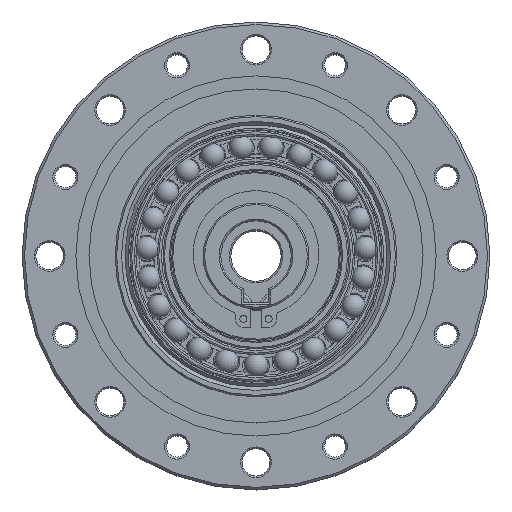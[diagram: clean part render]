
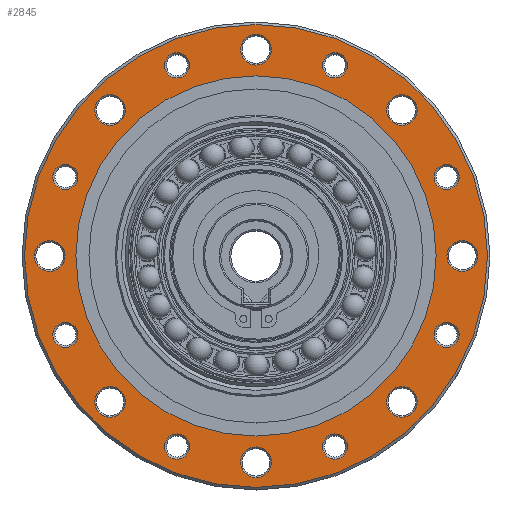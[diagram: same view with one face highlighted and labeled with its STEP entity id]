
A CAD part, top view. The second image highlights one B-rep face of the part: STEP entity #2845.
In plain terms, the highlighted planar face has unit normal (0, 0, 1).
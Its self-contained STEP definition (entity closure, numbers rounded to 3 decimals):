
#2845=ADVANCED_FACE('',(#4207,#4208,#4209,#4210,#4211,#4212,#4213,#4214,
#4215,#4216,#4217,#4218,#4219,#4220,#4221,#4222,#4223,#4224),#3446,.T.);
#3446=PLANE('',#12802);
#4207=FACE_BOUND('',#5279,.T.);
#4208=FACE_BOUND('',#5280,.T.);
#4209=FACE_BOUND('',#5281,.T.);
#4210=FACE_BOUND('',#5282,.T.);
#4211=FACE_BOUND('',#5283,.T.);
#4212=FACE_BOUND('',#5284,.T.);
#4213=FACE_BOUND('',#5285,.T.);
#4214=FACE_BOUND('',#5286,.T.);
#4215=FACE_BOUND('',#5287,.T.);
#4216=FACE_BOUND('',#5288,.T.);
#4217=FACE_BOUND('',#5289,.T.);
#4218=FACE_BOUND('',#5290,.T.);
#4219=FACE_BOUND('',#5291,.T.);
#4220=FACE_BOUND('',#5292,.T.);
#4221=FACE_BOUND('',#5293,.T.);
#4222=FACE_BOUND('',#5294,.T.);
#4223=FACE_BOUND('',#5295,.T.);
#4224=FACE_BOUND('',#5296,.T.);
#5279=EDGE_LOOP('',(#6637));
#5280=EDGE_LOOP('',(#6638));
#5281=EDGE_LOOP('',(#6639));
#5282=EDGE_LOOP('',(#6640));
#5283=EDGE_LOOP('',(#6641));
#5284=EDGE_LOOP('',(#6642));
#5285=EDGE_LOOP('',(#6643));
#5286=EDGE_LOOP('',(#6644));
#5287=EDGE_LOOP('',(#6645));
#5288=EDGE_LOOP('',(#6646));
#5289=EDGE_LOOP('',(#6647));
#5290=EDGE_LOOP('',(#6648));
#5291=EDGE_LOOP('',(#6649));
#5292=EDGE_LOOP('',(#6650));
#5293=EDGE_LOOP('',(#6651));
#5294=EDGE_LOOP('',(#6652));
#5295=EDGE_LOOP('',(#6653));
#5296=EDGE_LOOP('',(#6654));
#6637=ORIENTED_EDGE('',*,*,#10296,.T.);
#6638=ORIENTED_EDGE('',*,*,#10297,.T.);
#6639=ORIENTED_EDGE('',*,*,#10298,.T.);
#6640=ORIENTED_EDGE('',*,*,#10299,.T.);
#6641=ORIENTED_EDGE('',*,*,#10300,.T.);
#6642=ORIENTED_EDGE('',*,*,#10301,.T.);
#6643=ORIENTED_EDGE('',*,*,#10302,.T.);
#6644=ORIENTED_EDGE('',*,*,#10303,.T.);
#6645=ORIENTED_EDGE('',*,*,#10304,.T.);
#6646=ORIENTED_EDGE('',*,*,#10305,.T.);
#6647=ORIENTED_EDGE('',*,*,#10306,.T.);
#6648=ORIENTED_EDGE('',*,*,#10307,.T.);
#6649=ORIENTED_EDGE('',*,*,#10308,.T.);
#6650=ORIENTED_EDGE('',*,*,#10309,.T.);
#6651=ORIENTED_EDGE('',*,*,#10310,.T.);
#6652=ORIENTED_EDGE('',*,*,#10311,.T.);
#6653=ORIENTED_EDGE('',*,*,#10312,.T.);
#6654=ORIENTED_EDGE('',*,*,#10295,.F.);
#9175=VERTEX_POINT('',#18557);
#9176=VERTEX_POINT('',#18560);
#9177=VERTEX_POINT('',#18562);
#9178=VERTEX_POINT('',#18564);
#9179=VERTEX_POINT('',#18566);
#9180=VERTEX_POINT('',#18568);
#9181=VERTEX_POINT('',#18570);
#9182=VERTEX_POINT('',#18572);
#9183=VERTEX_POINT('',#18574);
#9184=VERTEX_POINT('',#18576);
#9185=VERTEX_POINT('',#18578);
#9186=VERTEX_POINT('',#18580);
#9187=VERTEX_POINT('',#18582);
#9188=VERTEX_POINT('',#18584);
#9189=VERTEX_POINT('',#18586);
#9190=VERTEX_POINT('',#18588);
#9191=VERTEX_POINT('',#18590);
#9192=VERTEX_POINT('',#18592);
#10295=EDGE_CURVE('',#9175,#9175,#11697,.T.);
#10296=EDGE_CURVE('',#9176,#9176,#11698,.T.);
#10297=EDGE_CURVE('',#9177,#9177,#11699,.T.);
#10298=EDGE_CURVE('',#9178,#9178,#11700,.T.);
#10299=EDGE_CURVE('',#9179,#9179,#11701,.T.);
#10300=EDGE_CURVE('',#9180,#9180,#11702,.T.);
#10301=EDGE_CURVE('',#9181,#9181,#11703,.T.);
#10302=EDGE_CURVE('',#9182,#9182,#11704,.T.);
#10303=EDGE_CURVE('',#9183,#9183,#11705,.T.);
#10304=EDGE_CURVE('',#9184,#9184,#11706,.T.);
#10305=EDGE_CURVE('',#9185,#9185,#11707,.T.);
#10306=EDGE_CURVE('',#9186,#9186,#11708,.T.);
#10307=EDGE_CURVE('',#9187,#9187,#11709,.T.);
#10308=EDGE_CURVE('',#9188,#9188,#11710,.T.);
#10309=EDGE_CURVE('',#9189,#9189,#11711,.T.);
#10310=EDGE_CURVE('',#9190,#9190,#11712,.T.);
#10311=EDGE_CURVE('',#9191,#9191,#11713,.T.);
#10312=EDGE_CURVE('',#9192,#9192,#11714,.T.);
#11697=CIRCLE('',#12783,46.);
#11698=CIRCLE('',#12785,3.05);
#11699=CIRCLE('',#12786,2.5);
#11700=CIRCLE('',#12787,3.05);
#11701=CIRCLE('',#12788,2.5);
#11702=CIRCLE('',#12789,3.05);
#11703=CIRCLE('',#12790,2.5);
#11704=CIRCLE('',#12791,3.05);
#11705=CIRCLE('',#12792,2.5);
#11706=CIRCLE('',#12793,3.05);
#11707=CIRCLE('',#12794,2.5);
#11708=CIRCLE('',#12795,3.05);
#11709=CIRCLE('',#12796,2.5);
#11710=CIRCLE('',#12797,3.05);
#11711=CIRCLE('',#12798,2.5);
#11712=CIRCLE('',#12799,3.05);
#11713=CIRCLE('',#12800,2.5);
#11714=CIRCLE('',#12801,35.8);
#12783=AXIS2_PLACEMENT_3D('',#18556,#14987,#14988);
#12785=AXIS2_PLACEMENT_3D('',#18559,#14991,#14992);
#12786=AXIS2_PLACEMENT_3D('',#18561,#14993,#14994);
#12787=AXIS2_PLACEMENT_3D('',#18563,#14995,#14996);
#12788=AXIS2_PLACEMENT_3D('',#18565,#14997,#14998);
#12789=AXIS2_PLACEMENT_3D('',#18567,#14999,#15000);
#12790=AXIS2_PLACEMENT_3D('',#18569,#15001,#15002);
#12791=AXIS2_PLACEMENT_3D('',#18571,#15003,#15004);
#12792=AXIS2_PLACEMENT_3D('',#18573,#15005,#15006);
#12793=AXIS2_PLACEMENT_3D('',#18575,#15007,#15008);
#12794=AXIS2_PLACEMENT_3D('',#18577,#15009,#15010);
#12795=AXIS2_PLACEMENT_3D('',#18579,#15011,#15012);
#12796=AXIS2_PLACEMENT_3D('',#18581,#15013,#15014);
#12797=AXIS2_PLACEMENT_3D('',#18583,#15015,#15016);
#12798=AXIS2_PLACEMENT_3D('',#18585,#15017,#15018);
#12799=AXIS2_PLACEMENT_3D('',#18587,#15019,#15020);
#12800=AXIS2_PLACEMENT_3D('',#18589,#15021,#15022);
#12801=AXIS2_PLACEMENT_3D('',#18591,#15023,#15024);
#12802=AXIS2_PLACEMENT_3D('',#18593,#15025,#15026);
#14987=DIRECTION('',(0.,0.,-1.));
#14988=DIRECTION('',(-1.,0.,0.));
#14991=DIRECTION('',(0.,0.,-1.));
#14992=DIRECTION('',(1.,0.,0.));
#14993=DIRECTION('',(0.,0.,-1.));
#14994=DIRECTION('',(1.,0.,0.));
#14995=DIRECTION('',(0.,0.,-1.));
#14996=DIRECTION('',(1.,0.,0.));
#14997=DIRECTION('',(0.,0.,-1.));
#14998=DIRECTION('',(1.,0.,0.));
#14999=DIRECTION('',(0.,0.,-1.));
#15000=DIRECTION('',(1.,0.,0.));
#15001=DIRECTION('',(0.,0.,-1.));
#15002=DIRECTION('',(1.,0.,0.));
#15003=DIRECTION('',(0.,0.,-1.));
#15004=DIRECTION('',(1.,0.,0.));
#15005=DIRECTION('',(0.,0.,-1.));
#15006=DIRECTION('',(1.,0.,0.));
#15007=DIRECTION('',(0.,0.,-1.));
#15008=DIRECTION('',(1.,0.,0.));
#15009=DIRECTION('',(0.,0.,-1.));
#15010=DIRECTION('',(1.,0.,0.));
#15011=DIRECTION('',(0.,0.,-1.));
#15012=DIRECTION('',(1.,0.,0.));
#15013=DIRECTION('',(0.,0.,-1.));
#15014=DIRECTION('',(1.,0.,0.));
#15015=DIRECTION('',(0.,0.,-1.));
#15016=DIRECTION('',(1.,0.,0.));
#15017=DIRECTION('',(0.,0.,-1.));
#15018=DIRECTION('',(1.,0.,0.));
#15019=DIRECTION('',(0.,0.,-1.));
#15020=DIRECTION('',(1.,0.,0.));
#15021=DIRECTION('',(0.,0.,-1.));
#15022=DIRECTION('',(1.,0.,0.));
#15023=DIRECTION('',(0.,0.,-1.));
#15024=DIRECTION('',(-1.,0.,0.));
#15025=DIRECTION('',(0.,0.,1.));
#15026=DIRECTION('',(1.,0.,0.));
#18556=CARTESIAN_POINT('',(0.,0.,23.8));
#18557=CARTESIAN_POINT('',(-46.,0.,23.8));
#18559=CARTESIAN_POINT('',(-28.991,28.991,23.8));
#18560=CARTESIAN_POINT('',(-25.941,28.991,23.8));
#18561=CARTESIAN_POINT('',(15.69,37.879,23.8));
#18562=CARTESIAN_POINT('',(18.19,37.879,23.8));
#18563=CARTESIAN_POINT('',(-41.,0.,23.8));
#18564=CARTESIAN_POINT('',(-37.95,0.,23.8));
#18565=CARTESIAN_POINT('',(-15.69,37.879,23.8));
#18566=CARTESIAN_POINT('',(-13.19,37.879,23.8));
#18567=CARTESIAN_POINT('',(-28.991,-28.991,23.8));
#18568=CARTESIAN_POINT('',(-25.941,-28.991,23.8));
#18569=CARTESIAN_POINT('',(-37.879,15.69,23.8));
#18570=CARTESIAN_POINT('',(-35.379,15.69,23.8));
#18571=CARTESIAN_POINT('',(0.,-41.,23.8));
#18572=CARTESIAN_POINT('',(3.05,-41.,23.8));
#18573=CARTESIAN_POINT('',(-37.879,-15.69,23.8));
#18574=CARTESIAN_POINT('',(-35.379,-15.69,23.8));
#18575=CARTESIAN_POINT('',(28.991,-28.991,23.8));
#18576=CARTESIAN_POINT('',(32.041,-28.991,23.8));
#18577=CARTESIAN_POINT('',(-15.69,-37.879,23.8));
#18578=CARTESIAN_POINT('',(-13.19,-37.879,23.8));
#18579=CARTESIAN_POINT('',(41.,0.,23.8));
#18580=CARTESIAN_POINT('',(44.05,0.,23.8));
#18581=CARTESIAN_POINT('',(15.69,-37.879,23.8));
#18582=CARTESIAN_POINT('',(18.19,-37.879,23.8));
#18583=CARTESIAN_POINT('',(28.991,28.991,23.8));
#18584=CARTESIAN_POINT('',(32.041,28.991,23.8));
#18585=CARTESIAN_POINT('',(37.879,-15.69,23.8));
#18586=CARTESIAN_POINT('',(40.379,-15.69,23.8));
#18587=CARTESIAN_POINT('',(0.,41.,23.8));
#18588=CARTESIAN_POINT('',(3.05,41.,23.8));
#18589=CARTESIAN_POINT('',(37.879,15.69,23.8));
#18590=CARTESIAN_POINT('',(40.379,15.69,23.8));
#18591=CARTESIAN_POINT('',(0.,0.,23.8));
#18592=CARTESIAN_POINT('',(-35.8,0.,23.8));
#18593=CARTESIAN_POINT('',(46.,0.,23.8));
